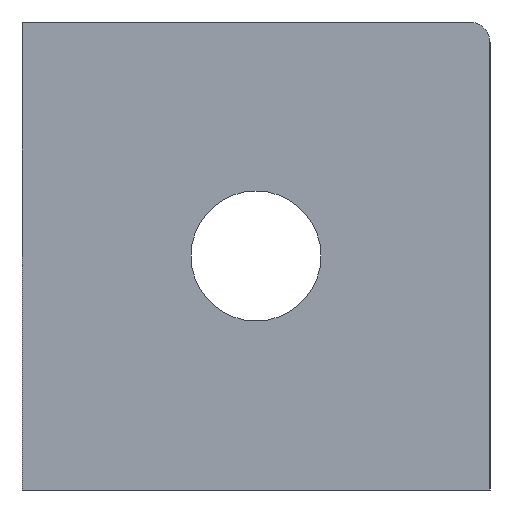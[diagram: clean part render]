
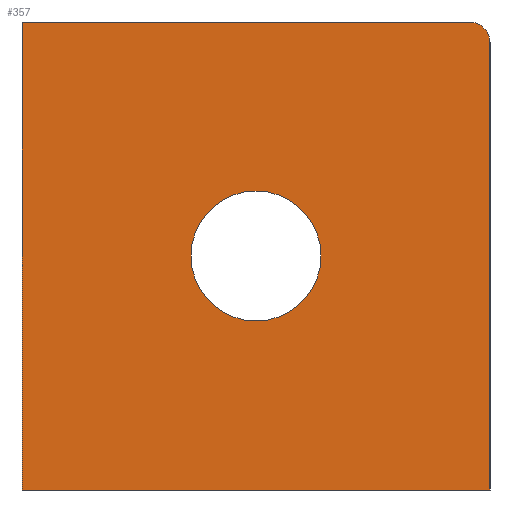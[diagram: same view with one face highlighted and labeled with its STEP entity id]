
A CAD part, left-side view. The second image highlights one B-rep face of the part: STEP entity #357.
In plain terms, the highlighted planar face has unit normal (-1, 0, 0).
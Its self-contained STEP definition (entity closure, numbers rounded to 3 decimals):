
#27 = ORIENTED_EDGE ( 'NONE', *, *, #71, .F. ) ;
#45 = DIRECTION ( 'NONE',  ( 0., 0., -1. ) ) ;
#53 = ORIENTED_EDGE ( 'NONE', *, *, #568, .F. ) ;
#56 = ORIENTED_EDGE ( 'NONE', *, *, #897, .T. ) ;
#71 = EDGE_CURVE ( 'NONE', #77, #1183, #534, .T. ) ;
#77 = VERTEX_POINT ( 'NONE', #1049 ) ;
#81 = DIRECTION ( 'NONE',  ( -1., 0., 0. ) ) ;
#86 = AXIS2_PLACEMENT_3D ( 'NONE', #514, #1204, #614 ) ;
#100 = LINE ( 'NONE', #442, #360 ) ;
#107 = ORIENTED_EDGE ( 'NONE', *, *, #276, .T. ) ;
#118 = CARTESIAN_POINT ( 'NONE',  ( -28.065, -19.113, 43. ) ) ;
#147 = AXIS2_PLACEMENT_3D ( 'NONE', #817, #228, #923 ) ;
#168 = DIRECTION ( 'NONE',  ( -1., 0., 0. ) ) ;
#175 = CIRCLE ( 'NONE', #257, 6.25 ) ;
#214 = VERTEX_POINT ( 'NONE', #118 ) ;
#215 = EDGE_LOOP ( 'NONE', ( #53, #56, #659, #107, #365 ) ) ;
#228 = DIRECTION ( 'NONE',  ( -1., 0., 0. ) ) ;
#253 = FACE_BOUND ( 'NONE', #600, .T. ) ;
#257 = AXIS2_PLACEMENT_3D ( 'NONE', #752, #168, #848 ) ;
#276 = EDGE_CURVE ( 'NONE', #378, #1080, #1065, .T. ) ;
#281 = FACE_OUTER_BOUND ( 'NONE', #215, .T. ) ;
#309 = VERTEX_POINT ( 'NONE', #730 ) ;
#357 = ADVANCED_FACE ( 'NONE', ( #253, #281 ), #909, .F. ) ;
#360 = VECTOR ( 'NONE', #736, 1000. ) ;
#365 = ORIENTED_EDGE ( 'NONE', *, *, #541, .T. ) ;
#378 = VERTEX_POINT ( 'NONE', #1128 ) ;
#391 = AXIS2_PLACEMENT_3D ( 'NONE', #666, #81, #762 ) ;
#439 = VECTOR ( 'NONE', #457, 1000. ) ;
#442 = CARTESIAN_POINT ( 'NONE',  ( -28.065, 25.887, 0. ) ) ;
#457 = DIRECTION ( 'NONE',  ( 0., 0., -1. ) ) ;
#514 = CARTESIAN_POINT ( 'NONE',  ( -28.065, 25.887, 45. ) ) ;
#534 = CIRCLE ( 'NONE', #391, 6.25 ) ;
#541 = EDGE_CURVE ( 'NONE', #1080, #1148, #100, .T. ) ;
#557 = VECTOR ( 'NONE', #1201, 1000. ) ;
#568 = EDGE_CURVE ( 'NONE', #214, #1148, #787, .T. ) ;
#600 = EDGE_LOOP ( 'NONE', ( #1122, #27 ) ) ;
#605 = CARTESIAN_POINT ( 'NONE',  ( -28.065, 25.887, 45. ) ) ;
#609 = EDGE_CURVE ( 'NONE', #1183, #77, #175, .T. ) ;
#614 = DIRECTION ( 'NONE',  ( 0., 1., 0. ) ) ;
#659 = ORIENTED_EDGE ( 'NONE', *, *, #1227, .F. ) ;
#666 = CARTESIAN_POINT ( 'NONE',  ( -28.065, 3.387, 22.5 ) ) ;
#726 = CARTESIAN_POINT ( 'NONE',  ( -28.065, 25.887, 45. ) ) ;
#730 = CARTESIAN_POINT ( 'NONE',  ( -28.065, -17.113, 45. ) ) ;
#736 = DIRECTION ( 'NONE',  ( 0., -1., 0. ) ) ;
#752 = CARTESIAN_POINT ( 'NONE',  ( -28.065, 3.387, 22.5 ) ) ;
#762 = DIRECTION ( 'NONE',  ( 0., -1., 0. ) ) ;
#787 = LINE ( 'NONE', #1139, #439 ) ;
#807 = VECTOR ( 'NONE', #45, 1000. ) ;
#817 = CARTESIAN_POINT ( 'NONE',  ( -28.065, -17.113, 43. ) ) ;
#848 = DIRECTION ( 'NONE',  ( 0., -1., 0. ) ) ;
#897 = EDGE_CURVE ( 'NONE', #214, #309, #1108, .T. ) ;
#901 = CARTESIAN_POINT ( 'NONE',  ( -28.065, -19.113, 0. ) ) ;
#909 = PLANE ( 'NONE',  #86 ) ;
#923 = DIRECTION ( 'NONE',  ( 0., 1., 0. ) ) ;
#1049 = CARTESIAN_POINT ( 'NONE',  ( -28.065, 9.637, 22.5 ) ) ;
#1065 = LINE ( 'NONE', #726, #807 ) ;
#1073 = CARTESIAN_POINT ( 'NONE',  ( -28.065, 25.887, 0. ) ) ;
#1080 = VERTEX_POINT ( 'NONE', #1073 ) ;
#1090 = CARTESIAN_POINT ( 'NONE',  ( -28.065, -2.863, 22.5 ) ) ;
#1102 = LINE ( 'NONE', #605, #557 ) ;
#1108 = CIRCLE ( 'NONE', #147, 2. ) ;
#1122 = ORIENTED_EDGE ( 'NONE', *, *, #609, .F. ) ;
#1128 = CARTESIAN_POINT ( 'NONE',  ( -28.065, 25.887, 45. ) ) ;
#1139 = CARTESIAN_POINT ( 'NONE',  ( -28.065, -19.113, 45. ) ) ;
#1148 = VERTEX_POINT ( 'NONE', #901 ) ;
#1183 = VERTEX_POINT ( 'NONE', #1090 ) ;
#1201 = DIRECTION ( 'NONE',  ( 0., -1., 0. ) ) ;
#1204 = DIRECTION ( 'NONE',  ( 1., 0., 0. ) ) ;
#1227 = EDGE_CURVE ( 'NONE', #378, #309, #1102, .T. ) ;
